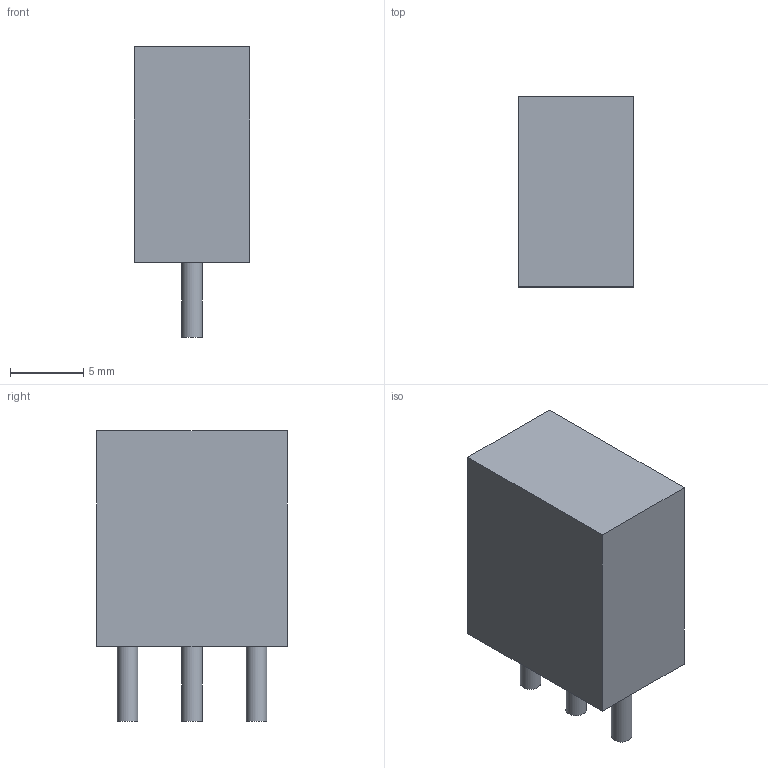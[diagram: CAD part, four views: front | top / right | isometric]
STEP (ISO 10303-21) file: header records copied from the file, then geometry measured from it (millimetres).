
FILE_DESCRIPTION(('FreeCAD Model'),'2;1');
FILE_NAME('/var/www/3D/0T/1127291.1.1.stp','2020-04-09T22:25:55',( 'Author'),(''),'Open CASCADE STEP processor 6.9','FreeCAD','Unknown' );
FILE_SCHEMA(('AUTOMOTIVE_DESIGN { 1 0 10303 214 1 1 1 1 }'));
Length unit declared in the file: millimetre
Products named in the file (3): ASSEMBLY; Body; Leads
Assembly tree (4 placements, depth 2):
  ASSEMBLY
    Body
    Leads  x3
Bounding box: 7.9 x 13 x 19.85 mm (x, y, z)
Volume: 1585.5 mm3; surface area: 1051.5 mm2
Topology: 10 solids, 10 shells, 33 faces, 39 edges, 26 vertices
Faces by surface type: plane 24, cylinder 9
Full cylindrical faces by diameter (mm): 1.4 x9
Entity records: 690 total; most frequent: DIRECTION 109, CARTESIAN_POINT 97, LINE 51, VECTOR 51, ORIENTED_EDGE 42, PCURVE 42, DEFINITIONAL_REPRESENTATION 42, AXIS2_PLACEMENT_3D 26
